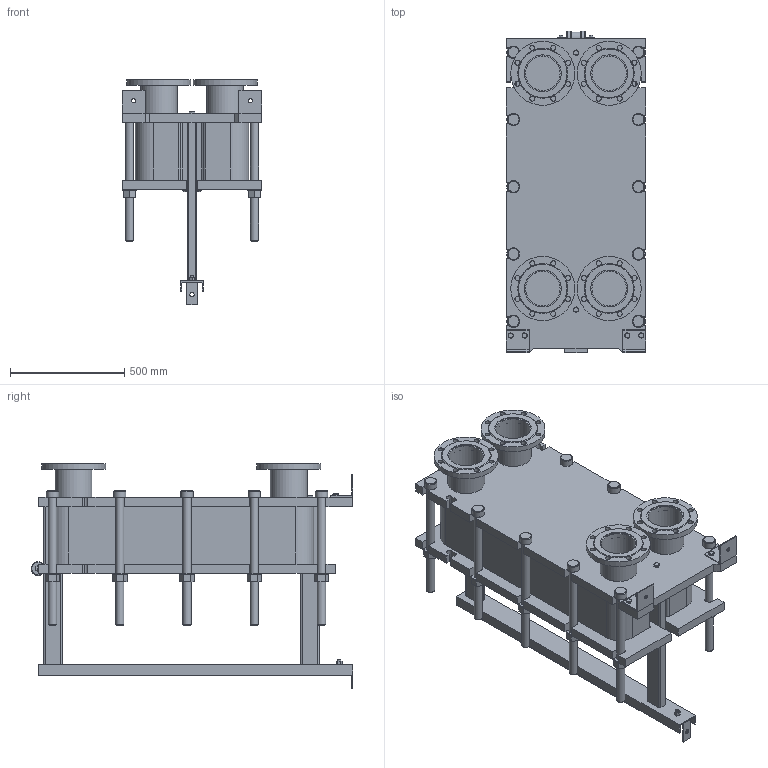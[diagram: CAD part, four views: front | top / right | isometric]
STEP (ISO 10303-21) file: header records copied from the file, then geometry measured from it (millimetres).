
FILE_DESCRIPTION(/* description */ (''),/* implementation_level */ '2;1');
FILE_NAME(/* name */ 'C:\Users\zhuro\Desktop\ENCO\TO\ЭН-041\ЭН-0,5-041-73-1.stp',/* time_stamp */ '2022-06-06T10:55:30+03:00',/* author */ ('zhuro'),/* organization */ (''),/* preprocessor_version */ 'ST-DEVELOPER v18.1',/* originating_system */ 'Autodesk Inventor 2022',/* authorisation */ '');
FILE_SCHEMA (('AUTOMOTIVE_DESIGN { 1 0 10303 214 3 1 1 }'));
Length unit declared in the file: millimetre
Products named in the file (1): ЭН-0,5-041-73-1
Bounding box: 610 x 1406.5 x 987.5 mm (x, y, z)
Volume: 220225621.5 mm3; surface area: 8429183.3 mm2
Topology: 52 solids, 52 shells, 711 faces, 1696 edges, 1094 vertices
Faces by surface type: plane 487, cylinder 177, cone 41, torus 6
Full cylindrical faces by diameter (mm): 8 x4, 10 x2, 16 x8, 18 x3, 22 x32, 36 x24, 50 x1, 54 x10, 60 x12, 151 x4, 161 x8, 280 x4
Entity records: 22667 total; most frequent: CARTESIAN_POINT 5230, DIRECTION 3644, ORIENTED_EDGE 3392, EDGE_CURVE 1696, AXIS2_PLACEMENT_3D 1272, LINE 1100, VECTOR 1100, VERTEX_POINT 1094
